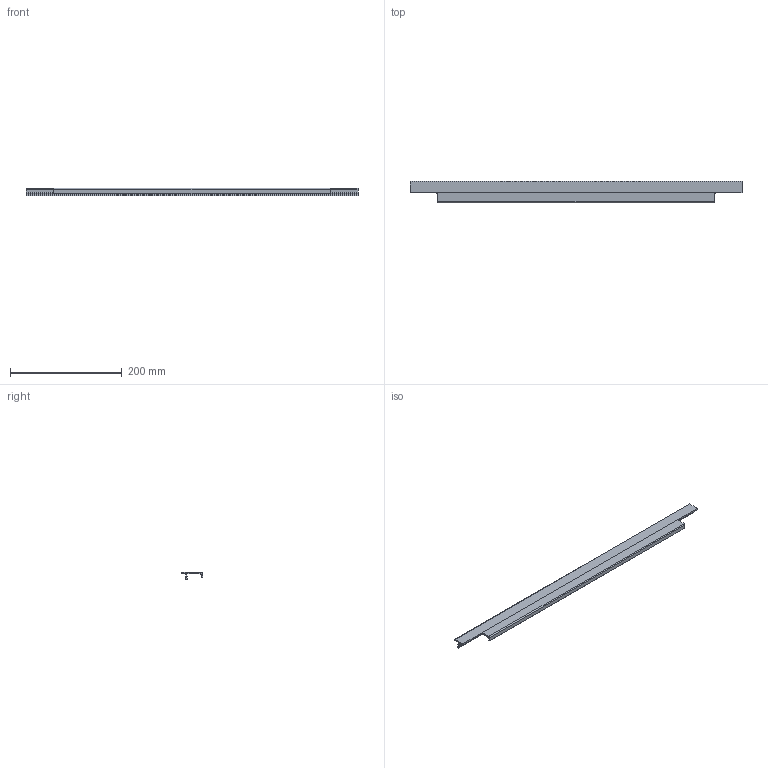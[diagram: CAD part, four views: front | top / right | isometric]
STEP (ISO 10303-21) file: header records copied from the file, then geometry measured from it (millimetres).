
FILE_DESCRIPTION( ( '' ), '1' );
FILE_NAME( 'C:/Documents and Settings/Nikhil/Desktop/Nik/Done/9105822.stp', '2013-10-23T08:21:12', ( '' ), ( '' ), ' ', ' ', ' ' );
FILE_SCHEMA( ( 'automotive_design' ) );
Length unit declared in the file: millimetre
Products named in the file (1): 1
Bounding box: 595 x 39 x 14 mm (x, y, z)
Volume: 85380.6 mm3; surface area: 65267.3 mm2
Topology: 1 solids, 1 shells, 40 faces, 112 edges, 74 vertices
Faces by surface type: plane 30, cylinder 10
Entity records: 2554 total; most frequent: STYLED_ITEM 227, PRESENTATION_STYLE_ASSIGNMENT 227, CARTESIAN_POINT 227, COLOUR_RGB 227, ORIENTED_EDGE 224, DIRECTION 214, EDGE_CURVE 112, CURVE_STYLE 112
